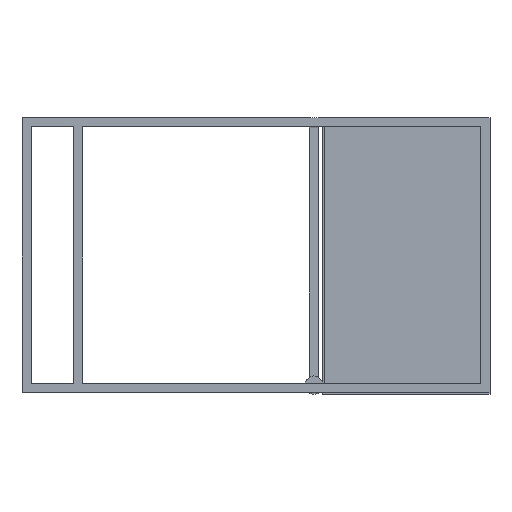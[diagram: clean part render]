
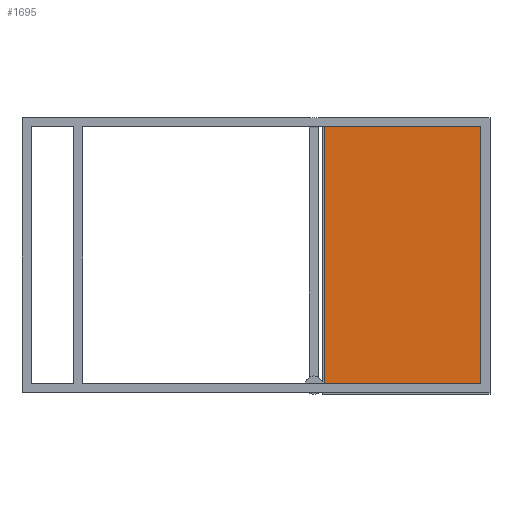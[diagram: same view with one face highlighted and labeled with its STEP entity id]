
A CAD part, top view. The second image highlights one B-rep face of the part: STEP entity #1695.
In plain terms, the highlighted planar face has unit normal (0, 0, 1).
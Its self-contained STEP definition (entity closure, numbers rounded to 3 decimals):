
#1659=AXIS2_PLACEMENT_3D('Plane Axis2P3D',#1656,#1657,#1658) ;
#1656=CARTESIAN_POINT('Axis2P3D Location',(0.,0.,-173.)) ;
#1661=CARTESIAN_POINT('Line Origine',(247.5,224.022,-173.)) ;
#1665=CARTESIAN_POINT('Vertex',(383.,224.022,-173.)) ;
#1667=CARTESIAN_POINT('Vertex',(112.,224.022,-173.)) ;
#1670=CARTESIAN_POINT('Line Origine',(112.,-1.478,-173.)) ;
#1674=CARTESIAN_POINT('Vertex',(112.,-226.978,-173.)) ;
#1677=CARTESIAN_POINT('Line Origine',(247.5,-226.978,-173.)) ;
#1681=CARTESIAN_POINT('Vertex',(383.,-226.978,-173.)) ;
#1684=CARTESIAN_POINT('Line Origine',(383.,-1.478,-173.)) ;
#1657=DIRECTION('Axis2P3D Direction',(0.,0.,1.)) ;
#1658=DIRECTION('Axis2P3D XDirection',(1.,0.,0.)) ;
#1662=DIRECTION('Vector Direction',(1.,0.,0.)) ;
#1671=DIRECTION('Vector Direction',(0.,1.,0.)) ;
#1678=DIRECTION('Vector Direction',(1.,0.,0.)) ;
#1685=DIRECTION('Vector Direction',(0.,1.,0.)) ;
#1663=VECTOR('Line Direction',#1662,1.) ;
#1672=VECTOR('Line Direction',#1671,1.) ;
#1679=VECTOR('Line Direction',#1678,1.) ;
#1686=VECTOR('Line Direction',#1685,1.) ;
#1690=ORIENTED_EDGE('',*,*,#1669,.T.) ;
#1691=ORIENTED_EDGE('',*,*,#1676,.F.) ;
#1692=ORIENTED_EDGE('',*,*,#1683,.T.) ;
#1693=ORIENTED_EDGE('',*,*,#1688,.T.) ;
#1695=ADVANCED_FACE('Body.2',(#1694),#1660,.T.) ;
#1669=EDGE_CURVE('',#1666,#1668,#1664,.F.) ;
#1676=EDGE_CURVE('',#1675,#1668,#1673,.T.) ;
#1683=EDGE_CURVE('',#1675,#1682,#1680,.T.) ;
#1688=EDGE_CURVE('',#1682,#1666,#1687,.T.) ;
#1689=EDGE_LOOP('',(#1690,#1691,#1692,#1693)) ;
#1694=FACE_OUTER_BOUND('',#1689,.T.) ;
#1664=LINE('Line',#1661,#1663) ;
#1673=LINE('Line',#1670,#1672) ;
#1680=LINE('Line',#1677,#1679) ;
#1687=LINE('Line',#1684,#1686) ;
#1660=PLANE('Plane',#1659) ;
#1666=VERTEX_POINT('',#1665) ;
#1668=VERTEX_POINT('',#1667) ;
#1675=VERTEX_POINT('',#1674) ;
#1682=VERTEX_POINT('',#1681) ;
